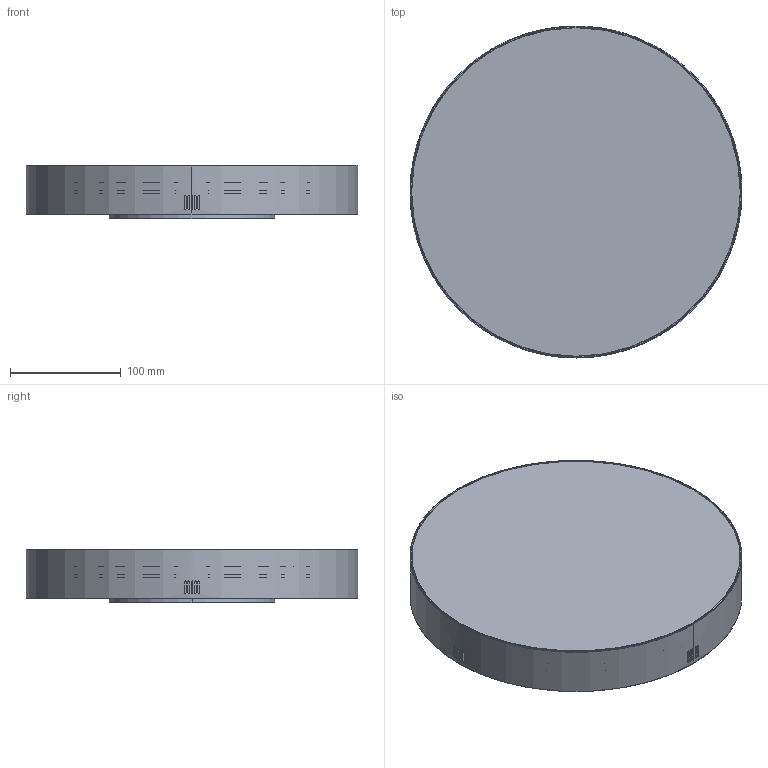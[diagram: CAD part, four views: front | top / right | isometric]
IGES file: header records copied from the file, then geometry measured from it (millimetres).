
Start section: SolidWorks IGES file using analytic representation for surfaces
Global section: file name: C:\Users\anna.bielnik\Desktop\modele 3D tymczasowe\LID-ROUND-LED\LID-ROUND-LED-50W\PM\PM\Z³o¿enie LID ROUND LED 50W.IGS; native system: SolidWorks 2023; preprocessor: SolidWorks 2023; author: anna.bielnik; date: 230710.074813; units: millimetre
Bounding box: 300 x 300 x 48 mm (x, y, z)
Surface area: 525625.2 mm2 (no closed solid volume)
Topology: 0 solids, 0 shells, 112 faces, 2368 edges, 2368 vertices
Faces by surface type: revolution 58, bspline 54
